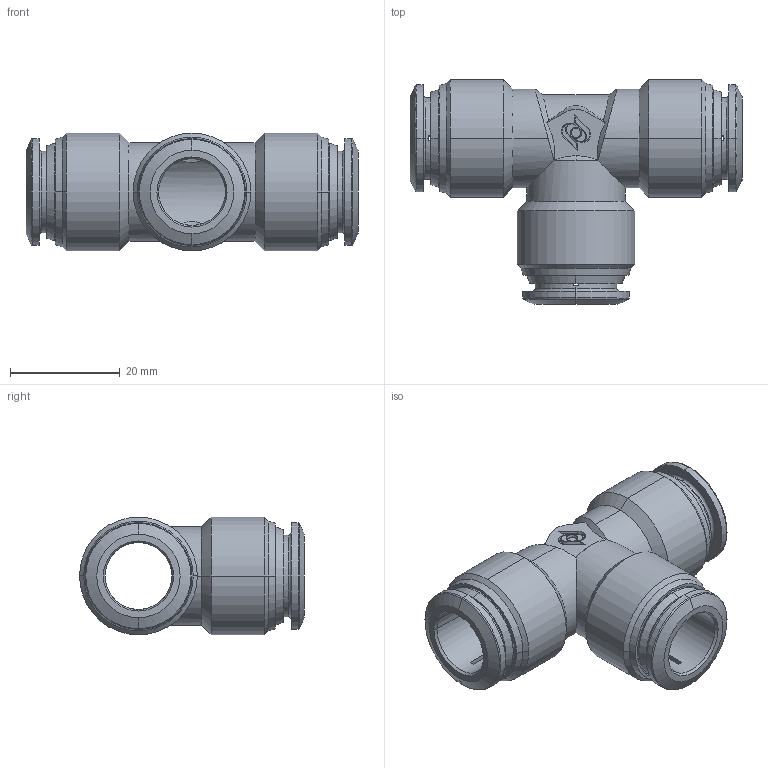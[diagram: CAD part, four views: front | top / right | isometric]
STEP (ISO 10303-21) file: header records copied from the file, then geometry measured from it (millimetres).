
FILE_DESCRIPTION (( 'STEP AP214' ), '1' );
FILE_NAME ('40230V0005A.STEP', '2016-05-19T12:49:31', ( '' ), ( '' ), 'SwSTEP 2.0', 'SolidWorks 2016', '' );
FILE_SCHEMA (( 'AUTOMOTIVE_DESIGN' ));
Length unit declared in the file: millimetre
Products named in the file (1): 40230V0005A
Bounding box: 60.6 x 41.05 x 21.5 mm (x, y, z)
Surface area: 8845.7 mm2 (no closed solid volume)
Topology: 0 solids, 7 shells, 169 faces, 502 edges, 337 vertices
Faces by surface type: cone 59, plane 51, cylinder 43, torus 12, bspline 4
Entity records: 8167 total; most frequent: CARTESIAN_POINT 1813, DIRECTION 955, ORIENTED_EDGE 878, EDGE_CURVE 502, AXIS2_PLACEMENT_3D 373, VERTEX_POINT 337, VECTOR 209, LINE 209
